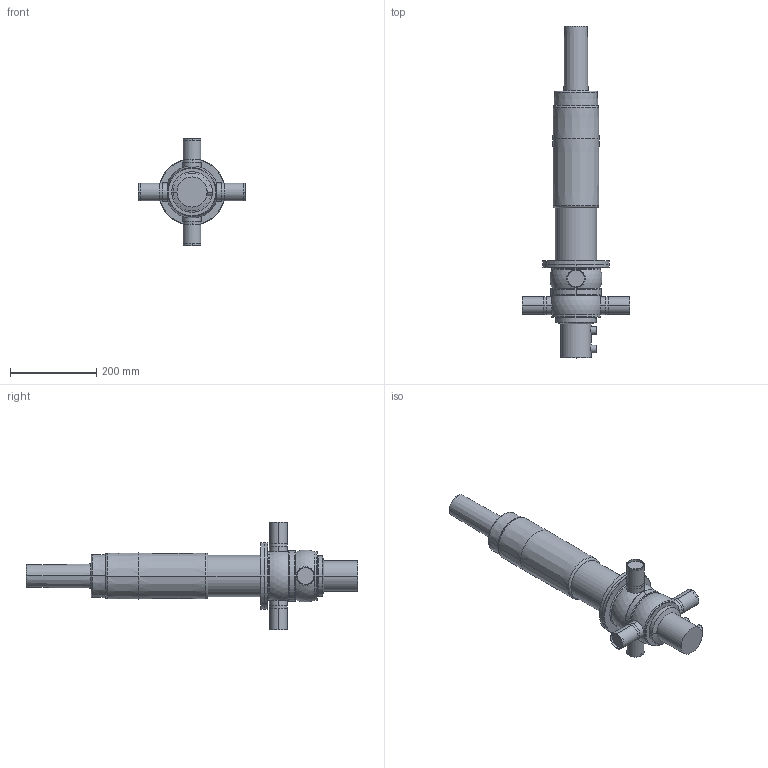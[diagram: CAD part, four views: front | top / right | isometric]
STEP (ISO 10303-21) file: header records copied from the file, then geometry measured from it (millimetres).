
FILE_DESCRIPTION(('Creo Elements/Direct Modeling STEP Export'),'2;1');
FILE_NAME('DA44-40_prox..stp','2019-09-04T15:26:06',(''),(''),'PTC Creo Elements/Direct Modeling STEP processor for AP214 (Solid Model)','PTC Creo Elements/Direct Modeling 19.0B 21-Mar-2015 (C) Parametric Technology GmbH','');
FILE_SCHEMA(('AUTOMOTIVE_DESIGN { 1 0 10303 214 1 1 1 1 }'));
Length unit declared in the file: millimetre
Products named in the file (5): D4_Prox._holder.; actuator_DA4-100_yoke; drain_pipe-62; housing_DA44-40; DA44-40_prox.
Assembly tree (4 placements, depth 2):
  DA44-40_prox.
    housing_DA44-40
    drain_pipe-62
    actuator_DA4-100_yoke
    D4_Prox._holder.
Bounding box: 250 x 771.35 x 250 mm (x, y, z)
Volume: 5985253.3 mm3; surface area: 378651.6 mm2
Topology: 4 solids, 4 shells, 144 faces, 307 edges, 185 vertices
Faces by surface type: cylinder 56, torus 32, plane 28, cone 24, sphere 4
Entity records: 4474 total; most frequent: CARTESIAN_POINT 1481, ORIENTED_EDGE 614, DIRECTION 606, EDGE_CURVE 307, AXIS2_PLACEMENT_3D 263, VERTEX_POINT 185, EDGE_LOOP 158, FACE_OUTER_BOUND 144
